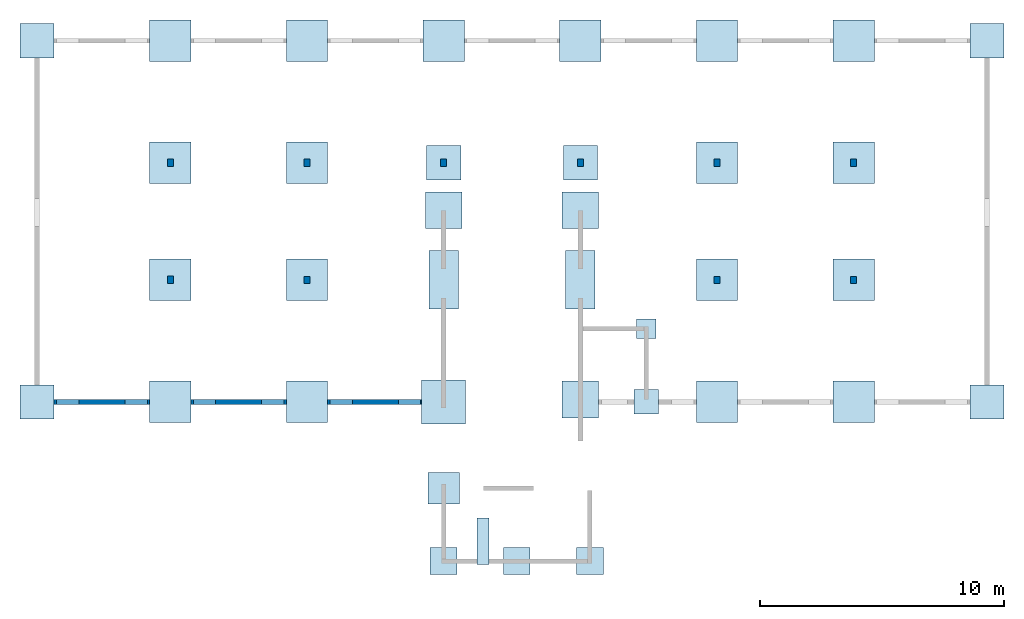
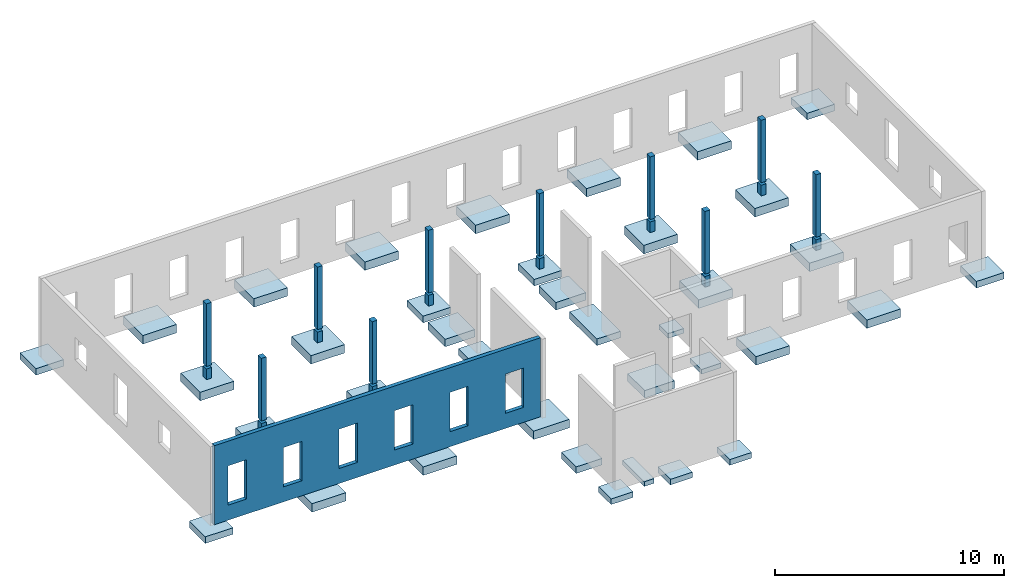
# One storey, part 1 of 2: 37 slabs, 10 columns, 1 wall, 6 openings.
"""IFC2X3 building model written with IfcOpenShell, lengths in metres."""

from ifc_helpers import new_model, entity, si_unit, converted_unit, derived_unit, direction, frame, frame_2d, origin, origin_2d_with_axis, place, context, subcontext, project, spatial, rectangle, extrude, source, transform, mapped, material, layer, layer_set, layer_usage, type_object, type_shapes, element, save


model = new_model("IFC2X3")

# Units and contexts
model_context = context("Model", 3, precision=1e-05, world=origin(), true_north=direction((6.12303176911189e-17, 1.0)))
context_of_model = context(None, 3, precision=1e-05, world=origin(), true_north=direction((6.12303176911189e-17, 1.0)))
body_context = subcontext(model_context, "Body", "Model", "MODEL_VIEW")
ifc_project = project(units=[si_unit("LENGTHUNIT", "METRE"), si_unit("AREAUNIT", "SQUARE_METRE"), si_unit("VOLUMEUNIT", "CUBIC_METRE"), converted_unit("PLANEANGLEUNIT", "DEGREE", entity("IfcRatioMeasure", 0.0174532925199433), si_unit("PLANEANGLEUNIT", "RADIAN"), dimensions=[0, 0, 0, 0, 0, 0, 0]), si_unit("MASSUNIT", "GRAM", prefix="KILO"), si_unit("TIMEUNIT", "SECOND"), si_unit("FREQUENCYUNIT", "HERTZ"), si_unit("THERMODYNAMICTEMPERATUREUNIT", "DEGREE_CELSIUS"), derived_unit("THERMALTRANSMITTANCEUNIT", [(si_unit("MASSUNIT", "GRAM", prefix="KILO"), 1), (si_unit("THERMODYNAMICTEMPERATUREUNIT", "KELVIN"), -1), (si_unit("TIMEUNIT", "SECOND"), -3)]), derived_unit("VOLUMETRICFLOWRATEUNIT", [(si_unit("LENGTHUNIT", "METRE"), 3), (si_unit("TIMEUNIT", "SECOND"), -1)]), si_unit("ELECTRICCURRENTUNIT", "AMPERE"), si_unit("ELECTRICVOLTAGEUNIT", "VOLT"), si_unit("POWERUNIT", "WATT"), si_unit("FORCEUNIT", "NEWTON"), si_unit("ILLUMINANCEUNIT", "LUX"), si_unit("LUMINOUSFLUXUNIT", "LUMEN"), si_unit("LUMINOUSINTENSITYUNIT", "CANDELA"), si_unit("PRESSUREUNIT", "PASCAL")], contexts=[model_context, context_of_model])

# Site, building, storey
site_placement = place(None, origin())
site = spatial("IfcSite", under=ifc_project, at=site_placement, Name="Default", CompositionType="ELEMENT")
building_placement = place(site_placement, origin())
building = spatial("IfcBuilding", under=site, at=building_placement, Name="BATIMENT 1", CompositionType="ELEMENT")
storey_placement = place(building_placement, frame((0.0, 0.0, -0.7)))
storey = spatial("IfcBuildingStorey", under=building, at=storey_placement, Name="Fondations", CompositionType="ELEMENT", Elevation=-0.7)

# Columns
ifc_material = material(Name="AEC Béton, C25/30")
column_type_1 = type_object("IfcColumnType", Name="BG 0.25 x 0.30 C25/30", PredefinedType="COLUMN", material=ifc_material)
shared_shape_1 = source(origin(), body_context, "Body", "SweptSolid", [
    extrude(rectangle(XDim=0.249999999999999, YDim=0.3, at=origin_2d_with_axis()), frame((-14.2036530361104, 3.48253761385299, -0.7), z_axis=(0.0, 0.0, 1.0), x_axis=(-1.0, 0.0, 0.0)), (0.0, 0.0, 1.0), 0.57),
    extrude(rectangle(XDim=0.3, YDim=0.249999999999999, at=origin_2d_with_axis()), frame((-14.2036530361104, 3.48253761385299, 0.0), z_axis=(0.0, 0.0, 1.0), x_axis=(0.0, -1.0, 0.0)), (0.0, 0.0, 1.0), 3.34),
])
type_shapes(column_type_1, [shared_shape_1])
column_1_placement = place(storey_placement, frame((0.0, 0.0, 0.7)))
element("IfcColumn", 1, at=column_1_placement, inside=storey, type_object=column_type_1, material=ifc_material, Name="Béton - Rectangulaire - Poteau:BG 0.25 x 0.30 C25/30", ObjectType="BG 0.25 x 0.30 C25/30", context=body_context, shape_type="MappedRepresentation", body=[
    mapped(shared_shape_1, transform((0.0, 0.0, 0.0), scale=1.0)),
])
column_type_2 = type_object("IfcColumnType", Name="BG 0.25 x 0.30 C25/30", PredefinedType="COLUMN", material=ifc_material)
shared_shape_2 = source(origin(), body_context, "Body", "SweptSolid", [
    extrude(rectangle(XDim=0.249999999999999, YDim=0.3, at=origin_2d_with_axis()), frame((-8.60365303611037, 3.48253761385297, -0.7), z_axis=(0.0, 0.0, 1.0), x_axis=(-1.0, 0.0, 0.0)), (0.0, 0.0, 1.0), 0.57),
    extrude(rectangle(XDim=0.3, YDim=0.249999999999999, at=frame_2d((-5.41233724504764e-16, 0.0), x_axis=(1.0, 0.0))), frame((-8.60365303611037, 3.48253761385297, 0.0), z_axis=(0.0, 0.0, 1.0), x_axis=(0.0, -1.0, 0.0)), (0.0, 0.0, 1.0), 3.34),
])
type_shapes(column_type_2, [shared_shape_2])
column_2_placement = place(storey_placement, frame((0.0, 0.0, 0.7)))
element("IfcColumn", 2, at=column_2_placement, inside=storey, type_object=column_type_2, material=ifc_material, Name="Béton - Rectangulaire - Poteau:BG 0.25 x 0.30 C25/30", ObjectType="BG 0.25 x 0.30 C25/30", context=body_context, shape_type="MappedRepresentation", body=[
    mapped(shared_shape_2, transform((0.0, 0.0, 0.0), scale=1.0)),
])
column_type_3 = type_object("IfcColumnType", Name="BG 0.25 x 0.30 C25/30", PredefinedType="COLUMN", material=ifc_material)
shared_shape_3 = source(origin(), body_context, "Body", "SweptSolid", [
    extrude(rectangle(XDim=0.25, YDim=0.3, at=frame_2d((2.70616862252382e-16, 0.0), x_axis=(1.0, 0.0))), frame((-3.00365303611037, 3.48253761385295, -0.7), z_axis=(0.0, 0.0, 1.0), x_axis=(-1.0, 0.0, 0.0)), (0.0, 0.0, 1.0), 0.57),
    extrude(rectangle(XDim=0.3, YDim=0.25, at=frame_2d((0.0, -2.70616862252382e-16), x_axis=(1.0, 0.0))), frame((-3.00365303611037, 3.48253761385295, 0.0), z_axis=(0.0, 0.0, 1.0), x_axis=(0.0, -1.0, 0.0)), (0.0, 0.0, 1.0), 3.34),
])
type_shapes(column_type_3, [shared_shape_3])
column_3_placement = place(storey_placement, frame((0.0, 0.0, 0.7)))
element("IfcColumn", 3, at=column_3_placement, inside=storey, type_object=column_type_3, material=ifc_material, Name="Béton - Rectangulaire - Poteau:BG 0.25 x 0.30 C25/30", ObjectType="BG 0.25 x 0.30 C25/30", context=body_context, shape_type="MappedRepresentation", body=[
    mapped(shared_shape_3, transform((0.0, 0.0, 0.0), scale=1.0)),
])
column_type_4 = type_object("IfcColumnType", Name="BG 0.25 x 0.30 C25/30", PredefinedType="COLUMN", material=ifc_material)
shared_shape_4 = source(origin(), body_context, "Body", "SweptSolid", [
    extrude(rectangle(XDim=0.25, YDim=0.3, at=frame_2d((2.70616862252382e-16, -5.41233724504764e-16), x_axis=(1.0, 0.0))), frame((2.59634696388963, 3.48253761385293, -0.7), z_axis=(0.0, 0.0, 1.0), x_axis=(-1.0, 0.0, 0.0)), (0.0, 0.0, 1.0), 0.57),
    extrude(rectangle(XDim=0.3, YDim=0.25, at=frame_2d((0.0, -2.70616862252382e-16), x_axis=(1.0, 0.0))), frame((2.59634696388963, 3.48253761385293, 0.0), z_axis=(0.0, 0.0, 1.0), x_axis=(0.0, -1.0, 0.0)), (0.0, 0.0, 1.0), 3.34),
])
type_shapes(column_type_4, [shared_shape_4])
column_4_placement = place(storey_placement, frame((0.0, 0.0, 0.7)))
element("IfcColumn", 4, at=column_4_placement, inside=storey, type_object=column_type_4, material=ifc_material, Name="Béton - Rectangulaire - Poteau:BG 0.25 x 0.30 C25/30", ObjectType="BG 0.25 x 0.30 C25/30", context=body_context, shape_type="MappedRepresentation", body=[
    mapped(shared_shape_4, transform((0.0, 0.0, 0.0), scale=1.0)),
])
column_type_5 = type_object("IfcColumnType", Name="BG 0.25 x 0.30 C25/30", PredefinedType="COLUMN", material=ifc_material)
shared_shape_5 = source(origin(), body_context, "Body", "SweptSolid", [
    extrude(rectangle(XDim=0.249999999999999, YDim=0.3, at=origin_2d_with_axis()), frame((8.19634696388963, 3.48253761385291, -0.7), z_axis=(0.0, 0.0, 1.0), x_axis=(-1.0, 0.0, 0.0)), (0.0, 0.0, 1.0), 0.57),
    extrude(rectangle(XDim=0.3, YDim=0.249999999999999, at=origin_2d_with_axis()), frame((8.19634696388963, 3.48253761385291, 0.0), z_axis=(0.0, 0.0, 1.0), x_axis=(0.0, -1.0, 0.0)), (0.0, 0.0, 1.0), 3.34),
])
type_shapes(column_type_5, [shared_shape_5])
column_5_placement = place(storey_placement, frame((0.0, 0.0, 0.7)))
element("IfcColumn", 5, at=column_5_placement, inside=storey, type_object=column_type_5, material=ifc_material, Name="Béton - Rectangulaire - Poteau:BG 0.25 x 0.30 C25/30", ObjectType="BG 0.25 x 0.30 C25/30", context=body_context, shape_type="MappedRepresentation", body=[
    mapped(shared_shape_5, transform((0.0, 0.0, 0.0), scale=1.0)),
])
column_type_6 = type_object("IfcColumnType", Name="BG 0.25 x 0.30 C25/30", PredefinedType="COLUMN", material=ifc_material)
shared_shape_6 = source(origin(), body_context, "Body", "SweptSolid", [
    extrude(rectangle(XDim=0.249999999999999, YDim=0.3, at=origin_2d_with_axis()), frame((13.7963469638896, 3.4825376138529, -0.7), z_axis=(0.0, 0.0, 1.0), x_axis=(-1.0, 0.0, 0.0)), (0.0, 0.0, 1.0), 0.57),
    extrude(rectangle(XDim=0.3, YDim=0.249999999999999, at=frame_2d((5.41233724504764e-16, 0.0), x_axis=(1.0, 0.0))), frame((13.7963469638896, 3.4825376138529, 0.0), z_axis=(0.0, 0.0, 1.0), x_axis=(0.0, -1.0, 0.0)), (0.0, 0.0, 1.0), 3.34),
])
type_shapes(column_type_6, [shared_shape_6])
column_6_placement = place(storey_placement, frame((0.0, 0.0, 0.7)))
element("IfcColumn", 6, at=column_6_placement, inside=storey, type_object=column_type_6, material=ifc_material, Name="Béton - Rectangulaire - Poteau:BG 0.25 x 0.30 C25/30", ObjectType="BG 0.25 x 0.30 C25/30", context=body_context, shape_type="MappedRepresentation", body=[
    mapped(shared_shape_6, transform((0.0, 0.0, 0.0), scale=1.0)),
])
column_type_7 = type_object("IfcColumnType", Name="BG 0.25 x 0.30 C25/30", PredefinedType="COLUMN", material=ifc_material)
shared_shape_7 = source(origin(), body_context, "Body", "SweptSolid", [
    extrude(rectangle(XDim=0.249999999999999, YDim=0.3, at=origin_2d_with_axis()), frame((-14.2036530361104, -1.31746238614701, -0.7), z_axis=(0.0, 0.0, 1.0), x_axis=(-1.0, 0.0, 0.0)), (0.0, 0.0, 1.0), 0.57),
    extrude(rectangle(XDim=0.3, YDim=0.249999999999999, at=origin_2d_with_axis()), frame((-14.2036530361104, -1.31746238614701, 0.0), z_axis=(0.0, 0.0, 1.0), x_axis=(0.0, -1.0, 0.0)), (0.0, 0.0, 1.0), 3.34),
])
type_shapes(column_type_7, [shared_shape_7])
column_7_placement = place(storey_placement, frame((0.0, 0.0, 0.7)))
element("IfcColumn", 7, at=column_7_placement, inside=storey, type_object=column_type_7, material=ifc_material, Name="Béton - Rectangulaire - Poteau:BG 0.25 x 0.30 C25/30", ObjectType="BG 0.25 x 0.30 C25/30", context=body_context, shape_type="MappedRepresentation", body=[
    mapped(shared_shape_7, transform((0.0, 0.0, 0.0), scale=1.0)),
])
column_type_8 = type_object("IfcColumnType", Name="BG 0.25 x 0.30 C25/30", PredefinedType="COLUMN", material=ifc_material)
shared_shape_8 = source(origin(), body_context, "Body", "SweptSolid", [
    extrude(rectangle(XDim=0.249999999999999, YDim=0.3, at=frame_2d((0.0, 1.38777878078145e-16), x_axis=(1.0, 0.0))), frame((-8.60365303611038, -1.31746238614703, -0.7), z_axis=(0.0, 0.0, 1.0), x_axis=(-1.0, 0.0, 0.0)), (0.0, 0.0, 1.0), 0.57),
    extrude(rectangle(XDim=0.3, YDim=0.249999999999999, at=origin_2d_with_axis()), frame((-8.60365303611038, -1.31746238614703, 0.0), z_axis=(0.0, 0.0, 1.0), x_axis=(0.0, -1.0, 0.0)), (0.0, 0.0, 1.0), 3.34),
])
type_shapes(column_type_8, [shared_shape_8])
column_8_placement = place(storey_placement, frame((0.0, 0.0, 0.7)))
element("IfcColumn", 8, at=column_8_placement, inside=storey, type_object=column_type_8, material=ifc_material, Name="Béton - Rectangulaire - Poteau:BG 0.25 x 0.30 C25/30", ObjectType="BG 0.25 x 0.30 C25/30", context=body_context, shape_type="MappedRepresentation", body=[
    mapped(shared_shape_8, transform((0.0, 0.0, 0.0), scale=1.0)),
])
column_type_9 = type_object("IfcColumnType", Name="BG 0.25 x 0.30 C25/30", PredefinedType="COLUMN", material=ifc_material)
shared_shape_9 = source(origin(), body_context, "Body", "SweptSolid", [
    extrude(rectangle(XDim=0.249999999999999, YDim=0.3, at=origin_2d_with_axis()), frame((8.19634696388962, -1.31746238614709, -0.7), z_axis=(0.0, 0.0, 1.0), x_axis=(-1.0, 0.0, 0.0)), (0.0, 0.0, 1.0), 0.57),
    extrude(rectangle(XDim=0.3, YDim=0.249999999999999, at=origin_2d_with_axis()), frame((8.19634696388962, -1.31746238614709, 0.0), z_axis=(0.0, 0.0, 1.0), x_axis=(0.0, -1.0, 0.0)), (0.0, 0.0, 1.0), 3.34),
])
type_shapes(column_type_9, [shared_shape_9])
column_9_placement = place(storey_placement, frame((0.0, 0.0, 0.7)))
element("IfcColumn", 9, at=column_9_placement, inside=storey, type_object=column_type_9, material=ifc_material, Name="Béton - Rectangulaire - Poteau:BG 0.25 x 0.30 C25/30", ObjectType="BG 0.25 x 0.30 C25/30", context=body_context, shape_type="MappedRepresentation", body=[
    mapped(shared_shape_9, transform((0.0, 0.0, 0.0), scale=1.0)),
])
column_type_10 = type_object("IfcColumnType", Name="BG 0.25 x 0.30 C25/30", PredefinedType="COLUMN", material=ifc_material)
shared_shape_10 = source(origin(), body_context, "Body", "SweptSolid", [
    extrude(rectangle(XDim=0.249999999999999, YDim=0.3, at=frame_2d((0.0, 1.38777878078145e-16), x_axis=(1.0, 0.0))), frame((13.7963469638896, -1.3174623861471, -0.7), z_axis=(0.0, 0.0, 1.0), x_axis=(-1.0, 0.0, 0.0)), (0.0, 0.0, 1.0), 0.57),
    extrude(rectangle(XDim=0.3, YDim=0.249999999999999, at=origin_2d_with_axis()), frame((13.7963469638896, -1.3174623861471, 0.0), z_axis=(0.0, 0.0, 1.0), x_axis=(0.0, -1.0, 0.0)), (0.0, 0.0, 1.0), 3.34),
])
type_shapes(column_type_10, [shared_shape_10])
column_10_placement = place(storey_placement, frame((0.0, 0.0, 0.7)))
element("IfcColumn", 10, at=column_10_placement, inside=storey, type_object=column_type_10, material=ifc_material, Name="Béton - Rectangulaire - Poteau:BG 0.25 x 0.30 C25/30", ObjectType="BG 0.25 x 0.30 C25/30", context=body_context, shape_type="MappedRepresentation", body=[
    mapped(shared_shape_10, transform((0.0, 0.0, 0.0), scale=1.0)),
])

# Slabs
slab_1_placement = place(storey_placement, origin())
element("IfcSlab", 11, at=slab_1_placement, inside=storey, material=ifc_material, Name="M_Base-Rectangulaire:BG SI 1.40 x 1.40 x 0.35 C25/30", ObjectType="M_Base-Rectangulaire:BG SI 1.40 x 1.40 x 0.35 C25/30", PredefinedType="FLOOR", context=body_context, shape_type="SweptSolid", body=[
    extrude(rectangle(XDim=1.4, YDim=1.4, at=frame_2d((1.11022302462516e-15, -5.55111512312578e-16), x_axis=(1.0, 0.0))), frame((-19.6636530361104, 8.482537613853, -0.35), z_axis=(0.0, 0.0, 1.0), x_axis=(-1.0, 0.0, 0.0)), (0.0, 0.0, 1.0), 0.35),
])
slab_2_placement = place(storey_placement, origin())
element("IfcSlab", 12, at=slab_2_placement, inside=storey, material=ifc_material, Name="M_Base-Rectangulaire:BG SI 1.40 x 1.40 x 0.35 C25/30", ObjectType="M_Base-Rectangulaire:BG SI 1.40 x 1.40 x 0.35 C25/30", PredefinedType="FLOOR", context=body_context, shape_type="SweptSolid", body=[
    extrude(rectangle(XDim=1.4, YDim=1.4, at=frame_2d((0.0, -5.55111512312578e-16), x_axis=(1.0, 0.0))), frame((19.2563469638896, 8.48253761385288, -0.35), z_axis=(0.0, 0.0, 1.0), x_axis=(-1.0, 0.0, 0.0)), (0.0, 0.0, 1.0), 0.35),
])
slab_3_placement = place(storey_placement, origin())
element("IfcSlab", 13, at=slab_3_placement, inside=storey, material=ifc_material, Name="M_Base-Rectangulaire:BG SI 1.40 x 1.40 x 0.35 C25/30", ObjectType="M_Base-Rectangulaire:BG SI 1.40 x 1.40 x 0.35 C25/30", PredefinedType="FLOOR", context=body_context, shape_type="SweptSolid", body=[
    extrude(rectangle(XDim=1.4, YDim=1.4, at=frame_2d((-1.11022302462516e-15, -5.55111512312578e-16), x_axis=(1.0, 0.0))), frame((19.2563469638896, -6.31746238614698, -0.35), z_axis=(0.0, 0.0, 1.0), x_axis=(-1.0, 0.0, 0.0)), (0.0, 0.0, 1.0), 0.35),
])
slab_4_placement = place(storey_placement, origin())
element("IfcSlab", 14, at=slab_4_placement, inside=storey, material=ifc_material, Name="M_Base-Rectangulaire:BG SI 1.40 x 1.40 x 0.35 C25/30", ObjectType="M_Base-Rectangulaire:BG SI 1.40 x 1.40 x 0.35 C25/30", PredefinedType="FLOOR", context=body_context, shape_type="SweptSolid", body=[
    extrude(rectangle(XDim=1.4, YDim=1.4, at=frame_2d((1.11022302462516e-15, -5.55111512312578e-16), x_axis=(1.0, 0.0))), frame((-19.6636530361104, -6.31746238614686, -0.35), z_axis=(0.0, 0.0, 1.0), x_axis=(-1.0, 0.0, 0.0)), (0.0, 0.0, 1.0), 0.35),
])
slab_5_placement = place(storey_placement, origin())
element("IfcSlab", 15, at=slab_5_placement, inside=storey, material=ifc_material, Name="M_Base-Rectangulaire:BG SI 1.70 x 1.70 x 0.45 C25/30", ObjectType="M_Base-Rectangulaire:BG SI 1.70 x 1.70 x 0.45 C25/30", PredefinedType="FLOOR", context=body_context, shape_type="SweptSolid", body=[
    extrude(rectangle(XDim=1.7, YDim=1.7, at=origin_2d_with_axis()), frame((-14.2036530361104, 8.48253761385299, -0.45), z_axis=(0.0, 0.0, 1.0), x_axis=(-1.0, 0.0, 0.0)), (0.0, 0.0, 1.0), 0.45),
])
slab_6_placement = place(storey_placement, origin())
element("IfcSlab", 16, at=slab_6_placement, inside=storey, material=ifc_material, Name="M_Base-Rectangulaire:BG SI 1.70 x 1.70 x 0.45 C25/30", ObjectType="M_Base-Rectangulaire:BG SI 1.70 x 1.70 x 0.45 C25/30", PredefinedType="FLOOR", context=body_context, shape_type="SweptSolid", body=[
    extrude(rectangle(XDim=1.7, YDim=1.7, at=frame_2d((5.55111512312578e-16, 0.0), x_axis=(1.0, 0.0))), frame((-8.60365303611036, 8.48253761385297, -0.45), z_axis=(0.0, 0.0, 1.0), x_axis=(-1.0, 0.0, 0.0)), (0.0, 0.0, 1.0), 0.45),
])
slab_7_placement = place(storey_placement, origin())
element("IfcSlab", 17, at=slab_7_placement, inside=storey, material=ifc_material, Name="M_Base-Rectangulaire:BG SI 1.70 x 1.70 x 0.45 C25/30", ObjectType="M_Base-Rectangulaire:BG SI 1.70 x 1.70 x 0.45 C25/30", PredefinedType="FLOOR", context=body_context, shape_type="SweptSolid", body=[
    extrude(rectangle(XDim=1.7, YDim=1.7, at=frame_2d((-2.77555756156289e-16, 0.0), x_axis=(1.0, 0.0))), frame((-3.00365303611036, 8.48253761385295, -0.45), z_axis=(0.0, 0.0, 1.0), x_axis=(-1.0, 0.0, 0.0)), (0.0, 0.0, 1.0), 0.45),
])
slab_8_placement = place(storey_placement, origin())
element("IfcSlab", 18, at=slab_8_placement, inside=storey, material=ifc_material, Name="M_Base-Rectangulaire:BG SI 1.70 x 1.70 x 0.45 C25/30", ObjectType="M_Base-Rectangulaire:BG SI 1.70 x 1.70 x 0.45 C25/30", PredefinedType="FLOOR", context=body_context, shape_type="SweptSolid", body=[
    extrude(rectangle(XDim=1.7, YDim=1.7, at=frame_2d((1.11022302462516e-16, 0.0), x_axis=(1.0, 0.0))), frame((2.59634696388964, 8.48253761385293, -0.45), z_axis=(0.0, 0.0, 1.0), x_axis=(-1.0, 0.0, 0.0)), (0.0, 0.0, 1.0), 0.45),
])
slab_9_placement = place(storey_placement, origin())
element("IfcSlab", 19, at=slab_9_placement, inside=storey, material=ifc_material, Name="M_Base-Rectangulaire:BG SI 1.70 x 1.70 x 0.45 C25/30", ObjectType="M_Base-Rectangulaire:BG SI 1.70 x 1.70 x 0.45 C25/30", PredefinedType="FLOOR", context=body_context, shape_type="SweptSolid", body=[
    extrude(rectangle(XDim=1.7, YDim=1.7, at=frame_2d((5.55111512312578e-16, 0.0), x_axis=(1.0, 0.0))), frame((8.19634696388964, 8.48253761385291, -0.45), z_axis=(0.0, 0.0, 1.0), x_axis=(-1.0, 0.0, 0.0)), (0.0, 0.0, 1.0), 0.45),
])
slab_10_placement = place(storey_placement, origin())
element("IfcSlab", 20, at=slab_10_placement, inside=storey, material=ifc_material, Name="M_Base-Rectangulaire:BG SI 1.70 x 1.70 x 0.45 C25/30", ObjectType="M_Base-Rectangulaire:BG SI 1.70 x 1.70 x 0.45 C25/30", PredefinedType="FLOOR", context=body_context, shape_type="SweptSolid", body=[
    extrude(rectangle(XDim=1.7, YDim=1.7, at=origin_2d_with_axis()), frame((13.7963469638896, 8.48253761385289, -0.45), z_axis=(0.0, 0.0, 1.0), x_axis=(-1.0, 0.0, 0.0)), (0.0, 0.0, 1.0), 0.45),
])
slab_11_placement = place(storey_placement, origin())
element("IfcSlab", 21, at=slab_11_placement, inside=storey, material=ifc_material, Name="M_Base-Rectangulaire:BG SI 1.70 x 1.70 x 0.45 C25/30", ObjectType="M_Base-Rectangulaire:BG SI 1.70 x 1.70 x 0.45 C25/30", PredefinedType="FLOOR", context=body_context, shape_type="SweptSolid", body=[
    extrude(rectangle(XDim=1.7, YDim=1.7, at=frame_2d((0.0, -2.77555756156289e-16), x_axis=(1.0, 0.0))), frame((-14.2036530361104, 3.48253761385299, -0.45), z_axis=(0.0, 0.0, 1.0), x_axis=(-1.0, 0.0, 0.0)), (0.0, 0.0, 1.0), 0.45),
])
slab_12_placement = place(storey_placement, origin())
element("IfcSlab", 22, at=slab_12_placement, inside=storey, material=ifc_material, Name="M_Base-Rectangulaire:BG SI 1.70 x 1.70 x 0.45 C25/30", ObjectType="M_Base-Rectangulaire:BG SI 1.70 x 1.70 x 0.45 C25/30", PredefinedType="FLOOR", context=body_context, shape_type="SweptSolid", body=[
    extrude(rectangle(XDim=1.7, YDim=1.7, at=frame_2d((5.55111512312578e-16, -2.77555756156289e-16), x_axis=(1.0, 0.0))), frame((-8.60365303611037, 3.48253761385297, -0.45), z_axis=(0.0, 0.0, 1.0), x_axis=(-1.0, 0.0, 0.0)), (0.0, 0.0, 1.0), 0.45),
])
slab_13_placement = place(storey_placement, origin())
element("IfcSlab", 23, at=slab_13_placement, inside=storey, material=ifc_material, Name="M_Base-Rectangulaire:BG SI 1.70 x 1.70 x 0.45 C25/30", ObjectType="M_Base-Rectangulaire:BG SI 1.70 x 1.70 x 0.45 C25/30", PredefinedType="FLOOR", context=body_context, shape_type="SweptSolid", body=[
    extrude(rectangle(XDim=1.7, YDim=1.7, at=frame_2d((5.55111512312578e-16, -2.77555756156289e-16), x_axis=(1.0, 0.0))), frame((8.19634696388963, 3.48253761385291, -0.45), z_axis=(0.0, 0.0, 1.0), x_axis=(-1.0, 0.0, 0.0)), (0.0, 0.0, 1.0), 0.45),
])
slab_14_placement = place(storey_placement, origin())
element("IfcSlab", 24, at=slab_14_placement, inside=storey, material=ifc_material, Name="M_Base-Rectangulaire:BG SI 1.70 x 1.70 x 0.45 C25/30", ObjectType="M_Base-Rectangulaire:BG SI 1.70 x 1.70 x 0.45 C25/30", PredefinedType="FLOOR", context=body_context, shape_type="SweptSolid", body=[
    extrude(rectangle(XDim=1.7, YDim=1.7, at=frame_2d((0.0, -2.77555756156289e-16), x_axis=(1.0, 0.0))), frame((13.7963469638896, 3.48253761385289, -0.45), z_axis=(0.0, 0.0, 1.0), x_axis=(-1.0, 0.0, 0.0)), (0.0, 0.0, 1.0), 0.45),
])
slab_15_placement = place(storey_placement, origin())
element("IfcSlab", 25, at=slab_15_placement, inside=storey, material=ifc_material, Name="M_Base-Rectangulaire:BG SI 1.70 x 1.70 x 0.45 C25/30", ObjectType="M_Base-Rectangulaire:BG SI 1.70 x 1.70 x 0.45 C25/30", PredefinedType="FLOOR", context=body_context, shape_type="SweptSolid", body=[
    extrude(rectangle(XDim=1.7, YDim=1.7, at=origin_2d_with_axis()), frame((-14.2036530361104, -1.31746238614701, -0.45), z_axis=(0.0, 0.0, 1.0), x_axis=(-1.0, 0.0, 0.0)), (0.0, 0.0, 1.0), 0.45),
])
slab_16_placement = place(storey_placement, origin())
element("IfcSlab", 26, at=slab_16_placement, inside=storey, material=ifc_material, Name="M_Base-Rectangulaire:BG SI 1.70 x 1.70 x 0.45 C25/30", ObjectType="M_Base-Rectangulaire:BG SI 1.70 x 1.70 x 0.45 C25/30", PredefinedType="FLOOR", context=body_context, shape_type="SweptSolid", body=[
    extrude(rectangle(XDim=1.7, YDim=1.7, at=frame_2d((5.55111512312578e-16, 0.0), x_axis=(1.0, 0.0))), frame((-8.60365303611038, -1.31746238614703, -0.45), z_axis=(0.0, 0.0, 1.0), x_axis=(-1.0, 0.0, 0.0)), (0.0, 0.0, 1.0), 0.45),
])
slab_17_placement = place(storey_placement, origin())
element("IfcSlab", 27, at=slab_17_placement, inside=storey, material=ifc_material, Name="M_Base-Rectangulaire:BG SI 1.70 x 1.70 x 0.45 C25/30", ObjectType="M_Base-Rectangulaire:BG SI 1.70 x 1.70 x 0.45 C25/30", PredefinedType="FLOOR", context=body_context, shape_type="SweptSolid", body=[
    extrude(rectangle(XDim=1.7, YDim=1.7, at=frame_2d((5.55111512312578e-16, 0.0), x_axis=(1.0, 0.0))), frame((-8.60365303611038, -6.31746238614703, -0.45), z_axis=(0.0, 0.0, 1.0), x_axis=(-1.0, 0.0, 0.0)), (0.0, 0.0, 1.0), 0.45),
])
slab_18_placement = place(storey_placement, origin())
element("IfcSlab", 28, at=slab_18_placement, inside=storey, material=ifc_material, Name="M_Base-Rectangulaire:BG SI 1.70 x 1.70 x 0.45 C25/30", ObjectType="M_Base-Rectangulaire:BG SI 1.70 x 1.70 x 0.45 C25/30", PredefinedType="FLOOR", context=body_context, shape_type="SweptSolid", body=[
    extrude(rectangle(XDim=1.7, YDim=1.7, at=origin_2d_with_axis()), frame((-14.2036530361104, -6.31746238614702, -0.45), z_axis=(0.0, 0.0, 1.0), x_axis=(-1.0, 0.0, 0.0)), (0.0, 0.0, 1.0), 0.45),
])
slab_19_placement = place(storey_placement, origin())
element("IfcSlab", 29, at=slab_19_placement, inside=storey, material=ifc_material, Name="M_Base-Rectangulaire:BG SI 1.70 x 1.70 x 0.45 C25/30", ObjectType="M_Base-Rectangulaire:BG SI 1.70 x 1.70 x 0.45 C25/30", PredefinedType="FLOOR", context=body_context, shape_type="SweptSolid", body=[
    extrude(rectangle(XDim=1.7, YDim=1.7, at=frame_2d((5.55111512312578e-16, 0.0), x_axis=(1.0, 0.0))), frame((8.19634696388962, -1.31746238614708, -0.45), z_axis=(0.0, 0.0, 1.0), x_axis=(-1.0, 0.0, 0.0)), (0.0, 0.0, 1.0), 0.45),
])
slab_20_placement = place(storey_placement, origin())
element("IfcSlab", 30, at=slab_20_placement, inside=storey, material=ifc_material, Name="M_Base-Rectangulaire:BG SI 1.70 x 1.70 x 0.45 C25/30", ObjectType="M_Base-Rectangulaire:BG SI 1.70 x 1.70 x 0.45 C25/30", PredefinedType="FLOOR", context=body_context, shape_type="SweptSolid", body=[
    extrude(rectangle(XDim=1.7, YDim=1.7, at=origin_2d_with_axis()), frame((13.7963469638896, -1.3174623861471, -0.45), z_axis=(0.0, 0.0, 1.0), x_axis=(-1.0, 0.0, 0.0)), (0.0, 0.0, 1.0), 0.45),
])
slab_21_placement = place(storey_placement, origin())
element("IfcSlab", 31, at=slab_21_placement, inside=storey, material=ifc_material, Name="M_Base-Rectangulaire:BG SI 1.70 x 1.70 x 0.45 C25/30", ObjectType="M_Base-Rectangulaire:BG SI 1.70 x 1.70 x 0.45 C25/30", PredefinedType="FLOOR", context=body_context, shape_type="SweptSolid", body=[
    extrude(rectangle(XDim=1.7, YDim=1.7, at=origin_2d_with_axis()), frame((13.7963469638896, -6.31746238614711, -0.45), z_axis=(0.0, 0.0, 1.0), x_axis=(-1.0, 0.0, 0.0)), (0.0, 0.0, 1.0), 0.45),
])
slab_22_placement = place(storey_placement, origin())
element("IfcSlab", 32, at=slab_22_placement, inside=storey, material=ifc_material, Name="M_Base-Rectangulaire:BG SI 1.70 x 1.70 x 0.45 C25/30", ObjectType="M_Base-Rectangulaire:BG SI 1.70 x 1.70 x 0.45 C25/30", PredefinedType="FLOOR", context=body_context, shape_type="SweptSolid", body=[
    extrude(rectangle(XDim=1.7, YDim=1.7, at=frame_2d((5.55111512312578e-16, 0.0), x_axis=(1.0, 0.0))), frame((8.19634696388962, -6.31746238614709, -0.45), z_axis=(0.0, 0.0, 1.0), x_axis=(-1.0, 0.0, 0.0)), (0.0, 0.0, 1.0), 0.45),
])
slab_23_placement = place(storey_placement, origin())
element("IfcSlab", 33, at=slab_23_placement, inside=storey, material=ifc_material, Name="M_Base-Rectangulaire:BG SI 1.40 x 1.40 x 0.35 C25/30", ObjectType="M_Base-Rectangulaire:BG SI 1.40 x 1.40 x 0.35 C25/30", PredefinedType="FLOOR", context=body_context, shape_type="SweptSolid", body=[
    extrude(rectangle(XDim=1.4, YDim=1.4, at=frame_2d((1.11022302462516e-16, 2.77555756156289e-16), x_axis=(1.0, 0.0))), frame((2.59634696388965, 3.48253761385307, -0.35), z_axis=(0.0, 0.0, 1.0), x_axis=(-1.0, 0.0, 0.0)), (0.0, 0.0, 1.0), 0.35),
])
slab_24_placement = place(storey_placement, origin())
element("IfcSlab", 34, at=slab_24_placement, inside=storey, material=ifc_material, Name="M_Base-Rectangulaire:BG SI 1.40 x 1.40 x 0.35 C25/30", ObjectType="M_Base-Rectangulaire:BG SI 1.40 x 1.40 x 0.35 C25/30", PredefinedType="FLOOR", context=body_context, shape_type="SweptSolid", body=[
    extrude(rectangle(XDim=1.4, YDim=1.4, at=frame_2d((2.77555756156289e-16, 2.77555756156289e-16), x_axis=(1.0, 0.0))), frame((-3.00365303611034, 3.48253761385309, -0.35), z_axis=(0.0, 0.0, 1.0), x_axis=(-1.0, 0.0, 0.0)), (0.0, 0.0, 1.0), 0.35),
])
slab_25_placement = place(storey_placement, origin())
element("IfcSlab", 35, at=slab_25_placement, inside=storey, material=ifc_material, Name="M_Base-Rectangulaire:BG SI 1.50x 1.50 x 0.40 C25/30", ObjectType="M_Base-Rectangulaire:BG SI 1.50x 1.50 x 0.40 C25/30", PredefinedType="FLOOR", context=body_context, shape_type="SweptSolid", body=[
    extrude(rectangle(XDim=1.5, YDim=1.5, at=frame_2d((-1.66533453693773e-16, 0.0), x_axis=(1.0, 0.0))), frame((2.59634696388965, 1.53253761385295, -0.4), z_axis=(0.0, 0.0, 1.0), x_axis=(-1.0, 0.0, 0.0)), (0.0, 0.0, 1.0), 0.4),
])
slab_26_placement = place(storey_placement, origin())
element("IfcSlab", 36, at=slab_26_placement, inside=storey, material=ifc_material, Name="M_Base-Rectangulaire:BG SI 1.50x 1.50 x 0.40 C25/30", ObjectType="M_Base-Rectangulaire:BG SI 1.50x 1.50 x 0.40 C25/30", PredefinedType="FLOOR", context=body_context, shape_type="SweptSolid", body=[
    extrude(rectangle(XDim=1.5, YDim=1.5, at=frame_2d((-2.77555756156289e-16, 2.77555756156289e-16), x_axis=(1.0, 0.0))), frame((-3.00365303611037, 1.53253761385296, -0.4), z_axis=(0.0, 0.0, 1.0), x_axis=(-1.0, 0.0, 0.0)), (0.0, 0.0, 1.0), 0.4),
])
slab_27_placement = place(storey_placement, origin())
element("IfcSlab", 37, at=slab_27_placement, inside=storey, material=ifc_material, Name="M_Base-Rectangulaire:BG SI 1.20x 2.40 x 0.35 C25/30", ObjectType="M_Base-Rectangulaire:BG SI 1.20x 2.40 x 0.35 C25/30", PredefinedType="FLOOR", context=body_context, shape_type="SweptSolid", body=[
    extrude(rectangle(XDim=1.2, YDim=2.4, at=origin_2d_with_axis()), frame((-3.00365303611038, -1.31746238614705, -0.35), z_axis=(0.0, 0.0, 1.0), x_axis=(-1.0, 0.0, 0.0)), (0.0, 0.0, 1.0), 0.35),
])
slab_28_placement = place(storey_placement, origin())
element("IfcSlab", 38, at=slab_28_placement, inside=storey, material=ifc_material, Name="M_Base-Rectangulaire:BG SI 1.20x 2.40 x 0.35 C25/30", ObjectType="M_Base-Rectangulaire:BG SI 1.20x 2.40 x 0.35 C25/30", PredefinedType="FLOOR", context=body_context, shape_type="SweptSolid", body=[
    extrude(rectangle(XDim=1.2, YDim=2.4, at=frame_2d((0.0, -1.11022302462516e-16), x_axis=(1.0, 0.0))), frame((2.59634696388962, -1.31746238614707, -0.35), z_axis=(0.0, 0.0, 1.0), x_axis=(-1.0, 0.0, 0.0)), (0.0, 0.0, 1.0), 0.35),
])
slab_29_placement = place(storey_placement, origin())
element("IfcSlab", 39, at=slab_29_placement, inside=storey, material=ifc_material, Name="M_Base-Rectangulaire:BG SI 0.80 x 0.80 x 0.25 C25/30", ObjectType="M_Base-Rectangulaire:BG SI 0.80 x 0.80 x 0.25 C25/30", PredefinedType="FLOOR", context=body_context, shape_type="SweptSolid", body=[
    extrude(rectangle(XDim=0.8, YDim=0.8, at=origin_2d_with_axis()), frame((5.29634696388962, -3.31746238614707, -0.25), z_axis=(0.0, 0.0, 1.0), x_axis=(-1.0, 0.0, 0.0)), (0.0, 0.0, 1.0), 0.25),
])
slab_30_placement = place(storey_placement, origin())
element("IfcSlab", 40, at=slab_30_placement, inside=storey, material=ifc_material, Name="M_Base-Rectangulaire:BG SI 1.00 x 1.00 x 0.25 C25/30", ObjectType="M_Base-Rectangulaire:BG SI 1.00 x 1.00 x 0.25 C25/30", PredefinedType="FLOOR", context=body_context, shape_type="SweptSolid", body=[
    extrude(rectangle(XDim=1.0, YDim=1.0, at=frame_2d((-2.4980018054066e-16, 0.0), x_axis=(1.0, 0.0))), frame((5.29634696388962, -6.31746238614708, -0.25), z_axis=(0.0, 0.0, 1.0), x_axis=(-1.0, 0.0, 0.0)), (0.0, 0.0, 1.0), 0.25),
])
slab_31_placement = place(storey_placement, origin())
element("IfcSlab", 41, at=slab_31_placement, inside=storey, material=ifc_material, Name="M_Base-Rectangulaire:BG SI 1.50x 1.50 x 0.40 C25/30", ObjectType="M_Base-Rectangulaire:BG SI 1.50x 1.50 x 0.40 C25/30", PredefinedType="FLOOR", context=body_context, shape_type="SweptSolid", body=[
    extrude(rectangle(XDim=1.5, YDim=1.5, at=frame_2d((1.11022302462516e-16, 0.0), x_axis=(1.0, 0.0))), frame((2.59634696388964, -6.21746238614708, -0.4), z_axis=(0.0, 0.0, 1.0), x_axis=(-1.0, 0.0, 0.0)), (0.0, 0.0, 1.0), 0.4),
])
slab_32_placement = place(storey_placement, origin())
element("IfcSlab", 42, at=slab_32_placement, inside=storey, material=ifc_material, Name="M_Base-Rectangulaire:BG SI 1.80 x 1.80 x 0.45 C25/30", ObjectType="M_Base-Rectangulaire:BG SI 1.80 x 1.80 x 0.45 C25/30", PredefinedType="FLOOR", context=body_context, shape_type="SweptSolid", body=[
    extrude(rectangle(XDim=1.8, YDim=1.8, at=frame_2d((2.22044604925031e-16, 0.0), x_axis=(1.0, 0.0))), frame((-3.00365303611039, -6.31746238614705, -0.45), z_axis=(0.0, 0.0, 1.0), x_axis=(-1.0, 0.0, 0.0)), (0.0, 0.0, 1.0), 0.45),
])
slab_33_placement = place(storey_placement, origin())
element("IfcSlab", 43, at=slab_33_placement, inside=storey, material=ifc_material, Name="M_Base-Rectangulaire:BG SI 1.30 x 1.30 x 0.35 C25/30", ObjectType="M_Base-Rectangulaire:BG SI 1.30 x 1.30 x 0.35 C25/30", PredefinedType="FLOOR", context=body_context, shape_type="SweptSolid", body=[
    extrude(rectangle(XDim=1.3, YDim=1.3, at=frame_2d((1.11022302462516e-16, -5.55111512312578e-16), x_axis=(1.0, 0.0))), frame((-3.00365303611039, -9.85746238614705, -0.35), z_axis=(0.0, 0.0, 1.0), x_axis=(-1.0, 0.0, 0.0)), (0.0, 0.0, 1.0), 0.35),
])
slab_34_placement = place(storey_placement, origin())
element("IfcSlab", 44, at=slab_34_placement, inside=storey, material=ifc_material, Name="M_Base-Rectangulaire:BG SI 1.10 x 1.10 x 0.30 C25/30", ObjectType="M_Base-Rectangulaire:BG SI 1.10 x 1.10 x 0.30 C25/30", PredefinedType="FLOOR", context=body_context, shape_type="SweptSolid", body=[
    extrude(rectangle(XDim=1.1, YDim=1.1, at=frame_2d((2.77555756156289e-16, -1.11022302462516e-15), x_axis=(1.0, 0.0))), frame((-3.00365303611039, -12.8374623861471, -0.3), z_axis=(0.0, 0.0, 1.0), x_axis=(-1.0, 0.0, 0.0)), (0.0, 0.0, 1.0), 0.3),
])
slab_35_placement = place(storey_placement, origin())
element("IfcSlab", 45, at=slab_35_placement, inside=storey, material=ifc_material, Name="M_Base-Rectangulaire:BG SI 1.10 x 1.10 x 0.30 C25/30", ObjectType="M_Base-Rectangulaire:BG SI 1.10 x 1.10 x 0.30 C25/30", PredefinedType="FLOOR", context=body_context, shape_type="SweptSolid", body=[
    extrude(rectangle(XDim=1.1, YDim=1.1, at=frame_2d((2.77555756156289e-16, 1.11022302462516e-15), x_axis=(1.0, 0.0))), frame((2.9863469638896, -12.8374623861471, -0.3), z_axis=(0.0, 0.0, 1.0), x_axis=(-1.0, 0.0, 0.0)), (0.0, 0.0, 1.0), 0.3),
])
slab_36_placement = place(storey_placement, origin())
element("IfcSlab", 46, at=slab_36_placement, inside=storey, material=ifc_material, Name="M_Base-Rectangulaire:BG SI 1.10 x 1.10 x 0.30 C25/30", ObjectType="M_Base-Rectangulaire:BG SI 1.10 x 1.10 x 0.30 C25/30", PredefinedType="FLOOR", context=body_context, shape_type="SweptSolid", body=[
    extrude(rectangle(XDim=1.1, YDim=1.1, at=frame_2d((0.0, -1.11022302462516e-15), x_axis=(1.0, 0.0))), frame((-0.00865303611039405, -12.8374623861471, -0.3), z_axis=(0.0, 0.0, 1.0), x_axis=(-1.0, 0.0, 0.0)), (0.0, 0.0, 1.0), 0.3),
])
slab_37_placement = place(storey_placement, origin())
element("IfcSlab", 47, at=slab_37_placement, inside=storey, material=ifc_material, Name="M_Base-Rectangulaire:BG SI 1.90x 0.50 x 0.25 C25/30", ObjectType="M_Base-Rectangulaire:BG SI 1.90x 0.50 x 0.25 C25/30", PredefinedType="FLOOR", context=body_context, shape_type="SweptSolid", body=[
    extrude(rectangle(XDim=1.9, YDim=0.5, at=frame_2d((1.0547118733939e-15, 0.0), x_axis=(1.0, 0.0))), frame((-1.39365303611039, -12.0274623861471, -0.25), z_axis=(0.0, 0.0, 1.0), x_axis=(0.0, -1.0, 0.0)), (0.0, 0.0, 1.0), 0.25),
])

# Wall, openings
ifc_layer = layer(ifc_material, 0.2)
ifc_layer_set = layer_set([ifc_layer], Name="Mur de base:BG VOILE BA 0.20 C25/30")
ifc_layer_usage = layer_usage(ifc_layer_set, "AXIS2", "NEGATIVE", 0.1)
wall_type = type_object("IfcWallType", Name="Mur de base:BG VOILE BA 0.20 C25/30", PredefinedType="STANDARD", material=ifc_layer_set)
wall_placement = place(storey_placement, frame((-19.5636530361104, -6.317462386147, 0.0)))
wall = element("IfcWallStandardCase", 48, at=wall_placement, inside=storey, type_object=wall_type, material=ifc_layer_usage, Name="Mur de base:BG VOILE BA 0.20 C25/30", ObjectType="Mur de base:BG VOILE BA 0.20 C25/30", context=body_context, shape_type="SweptSolid", body=[
    extrude(rectangle(XDim=16.46, YDim=0.2, at=frame_2d((8.23000000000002, -3.19189119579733e-16), x_axis=(-1.0, 0.0))), origin(), (0.0, 0.0, 1.0), 4.22),
])
opening_1_placement = place(wall_placement, origin())
element("IfcOpeningElement", 49, at=opening_1_placement, cuts=wall, Name="Mur de base:BG VOILE BA 0.20 C25/30", ObjectType="Opening", context=body_context, shape_type="SweptSolid", body=[
    extrude(rectangle(XDim=2.1, YDim=0.919999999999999, at=origin_2d_with_axis()), frame((1.16, -0.0999999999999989, 1.85), z_axis=(0.0, 1.0, 0.0), x_axis=(0.0, 0.0, -1.0)), (0.0, 0.0, 1.0), 0.2),
])
opening_2_placement = place(wall_placement, origin())
element("IfcOpeningElement", 50, at=opening_2_placement, cuts=wall, Name="Mur de base:BG VOILE BA 0.20 C25/30", ObjectType="Opening", context=body_context, shape_type="SweptSolid", body=[
    extrude(rectangle(XDim=2.1, YDim=0.919999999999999, at=origin_2d_with_axis()), frame((3.95999999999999, -0.100000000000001, 1.85), z_axis=(0.0, 1.0, 0.0), x_axis=(0.0, 0.0, -1.0)), (0.0, 0.0, 1.0), 0.2),
])
opening_3_placement = place(wall_placement, origin())
element("IfcOpeningElement", 51, at=opening_3_placement, cuts=wall, Name="Mur de base:BG VOILE BA 0.20 C25/30", ObjectType="Opening", context=body_context, shape_type="SweptSolid", body=[
    extrude(rectangle(XDim=2.1, YDim=0.919999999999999, at=origin_2d_with_axis()), frame((6.75999999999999, -0.1, 1.85), z_axis=(0.0, 1.0, 0.0), x_axis=(0.0, 0.0, -1.0)), (0.0, 0.0, 1.0), 0.2),
])
opening_4_placement = place(wall_placement, origin())
element("IfcOpeningElement", 52, at=opening_4_placement, cuts=wall, Name="Mur de base:BG VOILE BA 0.20 C25/30", ObjectType="Opening", context=body_context, shape_type="SweptSolid", body=[
    extrude(rectangle(XDim=2.1, YDim=0.919999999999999, at=origin_2d_with_axis()), frame((9.55999999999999, -0.1, 1.85), z_axis=(0.0, 1.0, 0.0), x_axis=(0.0, 0.0, -1.0)), (0.0, 0.0, 1.0), 0.2),
])
opening_5_placement = place(wall_placement, origin())
element("IfcOpeningElement", 53, at=opening_5_placement, cuts=wall, Name="Mur de base:BG VOILE BA 0.20 C25/30", ObjectType="Opening", context=body_context, shape_type="SweptSolid", body=[
    extrude(rectangle(XDim=2.1, YDim=0.919999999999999, at=origin_2d_with_axis()), frame((12.36, -0.100000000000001, 1.85), z_axis=(0.0, 1.0, 0.0), x_axis=(0.0, 0.0, -1.0)), (0.0, 0.0, 1.0), 0.2),
])
opening_6_placement = place(wall_placement, origin())
element("IfcOpeningElement", 54, at=opening_6_placement, cuts=wall, Name="Mur de base:BG VOILE BA 0.20 C25/30", ObjectType="Opening", context=body_context, shape_type="SweptSolid", body=[
    extrude(rectangle(XDim=2.1, YDim=0.919999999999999, at=origin_2d_with_axis()), frame((15.16, -0.1, 1.85), z_axis=(0.0, 1.0, 0.0), x_axis=(0.0, 0.0, -1.0)), (0.0, 0.0, 1.0), 0.2),
])

save(model, "model.ifc")
